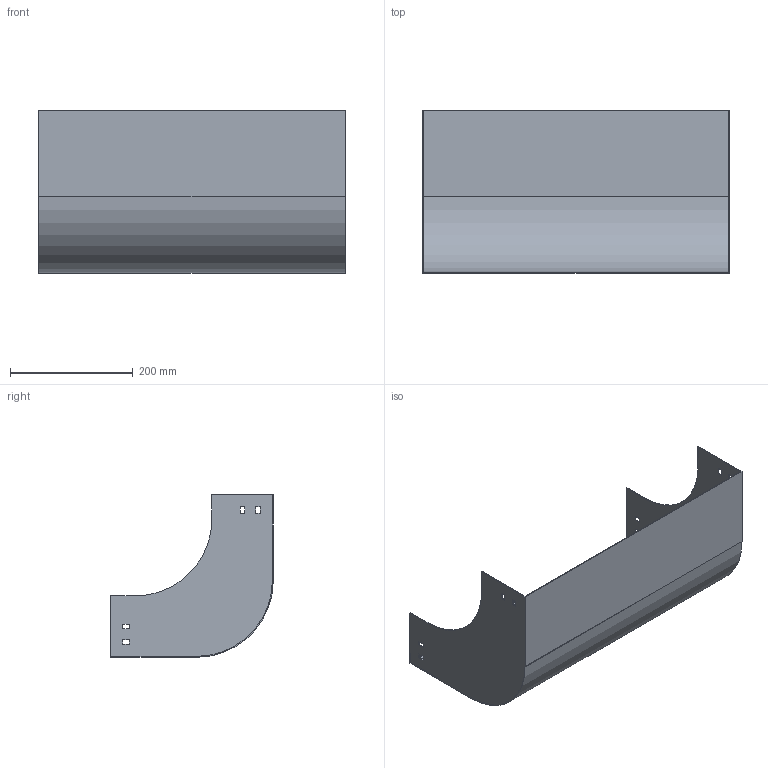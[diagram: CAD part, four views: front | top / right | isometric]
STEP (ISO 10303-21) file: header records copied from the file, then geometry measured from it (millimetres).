
FILE_DESCRIPTION (( 'STEP AP214' ), '1' );
FILE_NAME ('S9_501.step', '2025-07-16T09:28:33', ( '' ), ( '' ), 'SwSTEP 2.0', 'SolidWorks 2023', '' );
FILE_SCHEMA (( 'AUTOMOTIVE_DESIGN' ));
Length unit declared in the file: millimetre
Products named in the file (1): S9_501
Bounding box: 500 x 265 x 265 mm (x, y, z)
Volume: 482400.3 mm3; surface area: 646532 mm2
Topology: 1 solids, 1 shells, 50 faces, 144 edges, 96 vertices
Faces by surface type: plane 46, cylinder 4
Entity records: 1671 total; most frequent: CARTESIAN_POINT 291, ORIENTED_EDGE 288, DIRECTION 254, EDGE_CURVE 144, LINE 136, VECTOR 136, VERTEX_POINT 96, EDGE_LOOP 66
